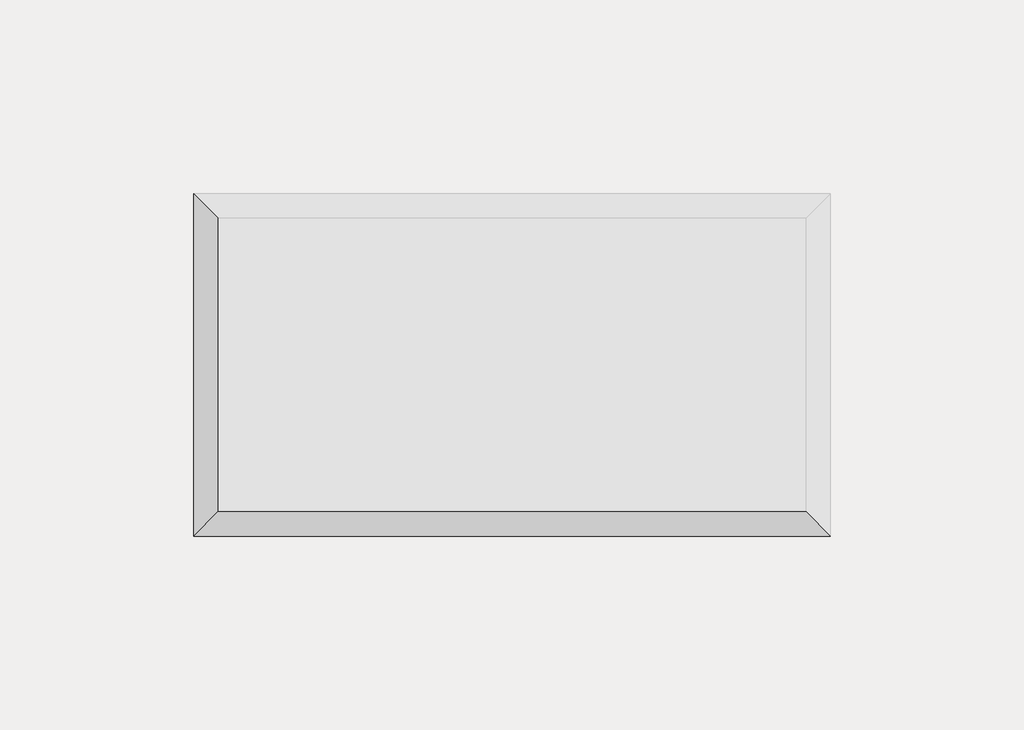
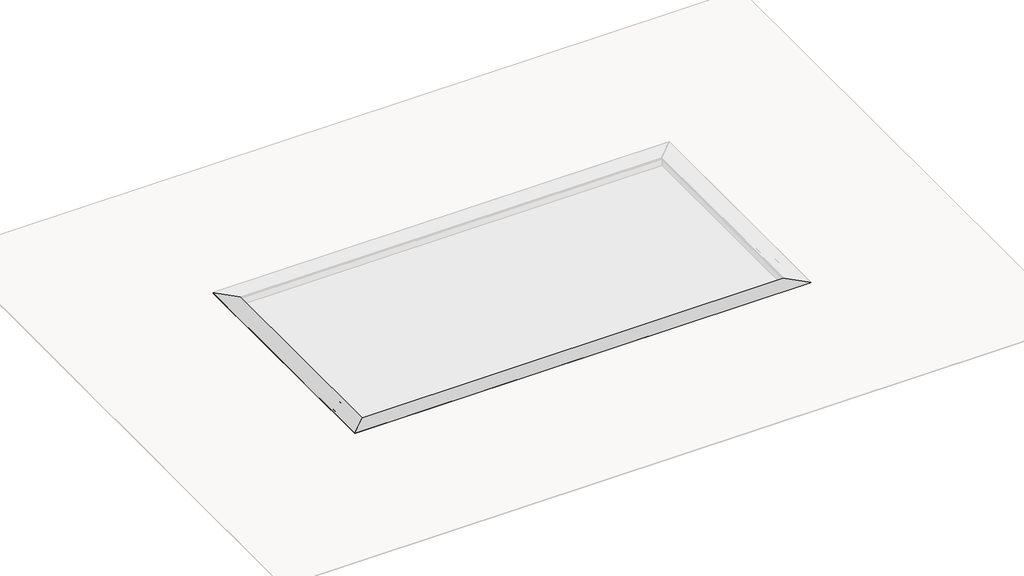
# One storey, part 2 of 8: 4 proxies.
"""IFC4 building model written with IfcOpenShell, lengths in millimetres."""

from ifc_helpers import new_model, si_unit, origin, place, context, project, spatial, faceted_brep, element, save

model = new_model("IFC4")

# Units and contexts
model_context = context("Model", 3, world=origin())
ifc_project = project(units=[si_unit("LENGTHUNIT", "METRE", prefix="MILLI")], contexts=[model_context])

# Site, building, storey
site = spatial("IfcSite", under=ifc_project)
building = spatial("IfcBuilding", under=site)
storey = spatial("IfcBuildingStorey", under=building, Name="EXAGRES_Serie ROCA POLAR_Piscinas_ejemplo", Elevation=14000.0)

# Proxies
placement = place(None, origin())
element("IfcBuildingElementProxy", 1, Name="Wall Sweeps", at=placement, inside=storey, context=model_context, shape_type="Brep", body=[
    faceted_brep([(-3627.0573251, -24249.0914606, 14000.0), (-3640.0573251, -24236.0914606, 14000.0), (-3640.0573251, -24236.0914606, 14033.0), (-3310.0573251, -24566.0914606, 14033.0), (-3310.0573251, -24566.0914606, 14021.0), (-3316.0573251, -24560.0914606, 14021.0), (-3316.0573251, -24560.0914606, 14022.0), (-3320.0573251, -24556.0914606, 14022.0), (-3320.0573251, -24556.0914606, 14021.0), (-3326.0573251, -24550.0914606, 14021.0), (-3326.0573251, -24550.0914606, 14022.0), (-3330.0573251, -24546.0914606, 14022.0), (-3330.0573251, -24546.0914606, 14021.0), (-3336.0573251, -24540.0914606, 14021.0), (-3336.0573251, -24540.0914606, 14022.0), (-3340.0573251, -24536.0914606, 14022.0), (-3340.0573251, -24536.0914606, 14021.0), (-3346.0573251, -24530.0914606, 14021.0), (-3346.0573251, -24530.0914606, 14022.0), (-3350.0573251, -24526.0914606, 14022.0), (-3350.0573251, -24526.0914606, 14021.0), (-3356.0573251, -24520.0914606, 14021.0), (-3356.0573251, -24520.0914606, 14022.0), (-3360.0573251, -24516.0914606, 14022.0), (-3360.0573251, -24516.0914606, 14021.0), (-3366.0573251, -24510.0914606, 14021.0), (-3366.0573251, -24510.0914606, 14022.0), (-3370.0573251, -24506.0914606, 14022.0), (-3370.0573251, -24506.0914606, 14021.0), (-3376.0573251, -24500.0914606, 14021.0), (-3376.0573251, -24500.0914606, 14022.0), (-3380.0573251, -24496.0914606, 14022.0), (-3380.0573251, -24496.0914606, 14021.0), (-3386.0573251, -24490.0914606, 14021.0), (-3386.0573251, -24490.0914606, 14022.0), (-3390.0573251, -24486.0914606, 14022.0), (-3390.0573251, -24486.0914606, 14021.0), (-3396.0573251, -24480.0914606, 14021.0), (-3396.0573251, -24480.0914606, 14022.0), (-3400.0573251, -24476.0914606, 14022.0), (-3400.0573251, -24476.0914606, 14021.0), (-3406.0573251, -24470.0914606, 14021.0), (-3406.0573251, -24470.0914606, 14022.0), (-3410.0573251, -24466.0914606, 14022.0), (-3410.0573251, -24466.0914606, 14021.0), (-3416.0573251, -24460.0914606, 14021.0), (-3416.0573251, -24460.0914606, 14022.0), (-3420.0573251, -24456.0914606, 14022.0), (-3420.0573251, -24456.0914606, 14021.0), (-3426.0573251, -24450.0914606, 14021.0), (-3426.0573251, -24450.0914606, 14022.0), (-3430.0573251, -24446.0914606, 14022.0), (-3430.0573251, -24446.0914606, 14021.0), (-3436.0573251, -24440.0914606, 14021.0), (-3436.0573251, -24440.0914606, 14022.0), (-3440.0573251, -24436.0914606, 14022.0), (-3440.0573251, -24436.0914606, 14021.0), (-3446.0573251, -24430.0914606, 14021.0), (-3446.0573251, -24430.0914606, 14022.0), (-3450.0573251, -24426.0914606, 14022.0), (-3450.0573251, -24426.0914606, 14021.0), (-3456.0573251, -24420.0914606, 14021.0), (-3456.0573251, -24420.0914606, 14022.0), (-3460.0573251, -24416.0914606, 14022.0), (-3460.0573251, -24416.0914606, 14021.0), (-3466.0573251, -24410.0914606, 14021.0), (-3466.0573251, -24410.0914606, 14022.0), (-3470.0573251, -24406.0914606, 14022.0), (-3470.0573251, -24406.0914606, 14021.0), (-3476.0573251, -24400.0914606, 14021.0), (-3476.0573251, -24400.0914606, 14022.0), (-3480.0573251, -24396.0914606, 14022.0), (-3480.0573251, -24396.0914606, 14021.0), (-3486.0573251, -24390.0914606, 14021.0), (-3486.0573251, -24390.0914606, 14022.0), (-3490.0573251, -24386.0914606, 14022.0), (-3490.0573251, -24386.0914606, 14021.0), (-3496.0573251, -24380.0914606, 14021.0), (-3496.0573251, -24380.0914606, 14022.0), (-3500.0573251, -24376.0914606, 14022.0), (-3500.0573251, -24376.0914606, 14021.0), (-3506.0573251, -24370.0914606, 14021.0), (-3506.0573251, -24370.0914606, 14022.0), (-3510.0573251, -24366.0914606, 14022.0), (-3510.0573251, -24366.0914606, 14021.0), (-3516.0573251, -24360.0914606, 14021.0), (-3516.0573251, -24360.0914606, 14022.0), (-3520.0573251, -24356.0914606, 14022.0), (-3520.0573251, -24356.0914606, 14021.0), (-3526.0573251, -24350.0914606, 14021.0), (-3526.0573251, -24350.0914606, 14022.0), (-3530.0573251, -24346.0914606, 14022.0), (-3530.0573251, -24346.0914606, 14021.0), (-3536.0573251, -24340.0914606, 14021.0), (-3536.0573251, -24340.0914606, 14022.0), (-3540.0573251, -24336.0914606, 14022.0), (-3540.0573251, -24336.0914606, 14021.0), (-3546.0573251, -24330.0914606, 14021.0), (-3546.0573251, -24330.0914606, 14022.0), (-3550.0573251, -24326.0914606, 14022.0), (-3550.0573251, -24326.0914606, 14021.0), (-3556.0573251, -24320.0914606, 14021.0), (-3556.0573251, -24320.0914606, 14022.0), (-3560.0573251, -24316.0914606, 14022.0), (-3560.0573251, -24316.0914606, 14021.0), (-3566.0573251, -24310.0914606, 14021.0), (-3566.0573251, -24310.0914606, 14022.0), (-3570.0573251, -24306.0914606, 14022.0), (-3570.0573251, -24306.0914606, 14021.0), (-3576.0573251, -24300.0914606, 14021.0), (-3576.0573251, -24300.0914606, 14022.0), (-3580.0573251, -24296.0914606, 14022.0), (-3580.0573251, -24296.0914606, 14021.0), (-3586.0573251, -24290.0914606, 14021.0), (-3586.0573251, -24290.0914606, 14022.0), (-3590.0573251, -24286.0914606, 14022.0), (-3590.0573251, -24286.0914606, 14021.0), (-3596.0573251, -24280.0914606, 14021.0), (-3596.0573251, -24280.0914606, 14022.0), (-3600.0573251, -24276.0914606, 14022.0), (-3600.0573251, -24276.0914606, 14021.0), (-3606.0573251, -24270.0914606, 14021.0), (-3606.0573251, -24270.0914606, 14022.0), (-3610.0573251, -24266.0914606, 14022.0), (-3610.0573251, -24266.0914606, 14021.0), (-3616.0573251, -24260.0914606, 14021.0), (-3616.0573251, -24260.0914606, 14022.0), (-3620.0573251, -24256.0914606, 14022.0), (-3620.0573251, -24256.0914606, 14021.0), (-3627.0573251, -24249.0914606, 14021.0), (-3627.0573251, -24249.0914606, 14014.0), (-3628.0573251, -24248.0914606, 14014.0), (-3628.0573251, -24248.0914606, 14008.0), (-3627.0573251, -24249.0914606, 14008.0), (-11653.0573251, -24249.0914606, 14000.0), (-11653.0573251, -24249.0914606, 14008.0), (-11652.0573251, -24248.0914606, 14008.0), (-11652.0573251, -24248.0914606, 14014.0), (-11653.0573251, -24249.0914606, 14014.0), (-11653.0573251, -24249.0914606, 14021.0), (-11660.0573251, -24256.0914606, 14021.0), (-11660.0573251, -24256.0914606, 14022.0), (-11664.0573251, -24260.0914606, 14022.0), (-11664.0573251, -24260.0914606, 14021.0), (-11670.0573251, -24266.0914606, 14021.0), (-11670.0573251, -24266.0914606, 14022.0), (-11674.0573251, -24270.0914606, 14022.0), (-11674.0573251, -24270.0914606, 14021.0), (-11680.0573251, -24276.0914606, 14021.0), (-11680.0573251, -24276.0914606, 14022.0), (-11684.0573251, -24280.0914606, 14022.0), (-11684.0573251, -24280.0914606, 14021.0), (-11690.0573251, -24286.0914606, 14021.0), (-11690.0573251, -24286.0914606, 14022.0), (-11694.0573251, -24290.0914606, 14022.0), (-11694.0573251, -24290.0914606, 14021.0), (-11700.0573251, -24296.0914606, 14021.0), (-11700.0573251, -24296.0914606, 14022.0), (-11704.0573251, -24300.0914606, 14022.0), (-11704.0573251, -24300.0914606, 14021.0), (-11710.0573251, -24306.0914606, 14021.0), (-11710.0573251, -24306.0914606, 14022.0), (-11714.0573251, -24310.0914606, 14022.0), (-11714.0573251, -24310.0914606, 14021.0), (-11720.0573251, -24316.0914606, 14021.0), (-11720.0573251, -24316.0914606, 14022.0), (-11724.0573251, -24320.0914606, 14022.0), (-11724.0573251, -24320.0914606, 14021.0), (-11730.0573251, -24326.0914606, 14021.0), (-11730.0573251, -24326.0914606, 14022.0), (-11734.0573251, -24330.0914606, 14022.0), (-11734.0573251, -24330.0914606, 14021.0), (-11740.0573251, -24336.0914606, 14021.0), (-11740.0573251, -24336.0914606, 14022.0), (-11744.0573251, -24340.0914606, 14022.0), (-11744.0573251, -24340.0914606, 14021.0), (-11750.0573251, -24346.0914606, 14021.0), (-11750.0573251, -24346.0914606, 14022.0), (-11754.0573251, -24350.0914606, 14022.0), (-11754.0573251, -24350.0914606, 14021.0), (-11760.0573251, -24356.0914606, 14021.0), (-11760.0573251, -24356.0914606, 14022.0), (-11764.0573251, -24360.0914606, 14022.0), (-11764.0573251, -24360.0914606, 14021.0), (-11770.0573251, -24366.0914606, 14021.0), (-11770.0573251, -24366.0914606, 14022.0), (-11774.0573251, -24370.0914606, 14022.0), (-11774.0573251, -24370.0914606, 14021.0), (-11780.0573251, -24376.0914606, 14021.0), (-11780.0573251, -24376.0914606, 14022.0), (-11784.0573251, -24380.0914606, 14022.0), (-11784.0573251, -24380.0914606, 14021.0), (-11790.0573251, -24386.0914606, 14021.0), (-11790.0573251, -24386.0914606, 14022.0), (-11794.0573251, -24390.0914606, 14022.0), (-11794.0573251, -24390.0914606, 14021.0), (-11800.0573251, -24396.0914606, 14021.0), (-11800.0573251, -24396.0914606, 14022.0), (-11804.0573251, -24400.0914606, 14022.0), (-11804.0573251, -24400.0914606, 14021.0), (-11810.0573251, -24406.0914606, 14021.0), (-11810.0573251, -24406.0914606, 14022.0), (-11814.0573251, -24410.0914606, 14022.0), (-11814.0573251, -24410.0914606, 14021.0), (-11820.0573251, -24416.0914606, 14021.0), (-11820.0573251, -24416.0914606, 14022.0), (-11824.0573251, -24420.0914606, 14022.0), (-11824.0573251, -24420.0914606, 14021.0), (-11830.0573251, -24426.0914606, 14021.0), (-11830.0573251, -24426.0914606, 14022.0), (-11834.0573251, -24430.0914606, 14022.0), (-11834.0573251, -24430.0914606, 14021.0), (-11840.0573251, -24436.0914606, 14021.0), (-11840.0573251, -24436.0914606, 14022.0), (-11844.0573251, -24440.0914606, 14022.0), (-11844.0573251, -24440.0914606, 14021.0), (-11850.0573251, -24446.0914606, 14021.0), (-11850.0573251, -24446.0914606, 14022.0), (-11854.0573251, -24450.0914606, 14022.0), (-11854.0573251, -24450.0914606, 14021.0), (-11860.0573251, -24456.0914606, 14021.0), (-11860.0573251, -24456.0914606, 14022.0), (-11864.0573251, -24460.0914606, 14022.0), (-11864.0573251, -24460.0914606, 14021.0), (-11870.0573251, -24466.0914606, 14021.0), (-11870.0573251, -24466.0914606, 14022.0), (-11874.0573251, -24470.0914606, 14022.0), (-11874.0573251, -24470.0914606, 14021.0), (-11880.0573251, -24476.0914606, 14021.0), (-11880.0573251, -24476.0914606, 14022.0), (-11884.0573251, -24480.0914606, 14022.0), (-11884.0573251, -24480.0914606, 14021.0), (-11890.0573251, -24486.0914606, 14021.0), (-11890.0573251, -24486.0914606, 14022.0), (-11894.0573251, -24490.0914606, 14022.0), (-11894.0573251, -24490.0914606, 14021.0), (-11900.0573251, -24496.0914606, 14021.0), (-11900.0573251, -24496.0914606, 14022.0), (-11904.0573251, -24500.0914606, 14022.0), (-11904.0573251, -24500.0914606, 14021.0), (-11910.0573251, -24506.0914606, 14021.0), (-11910.0573251, -24506.0914606, 14022.0), (-11914.0573251, -24510.0914606, 14022.0), (-11914.0573251, -24510.0914606, 14021.0), (-11920.0573251, -24516.0914606, 14021.0), (-11920.0573251, -24516.0914606, 14022.0), (-11924.0573251, -24520.0914606, 14022.0), (-11924.0573251, -24520.0914606, 14021.0), (-11930.0573251, -24526.0914606, 14021.0), (-11930.0573251, -24526.0914606, 14022.0), (-11934.0573251, -24530.0914606, 14022.0), (-11934.0573251, -24530.0914606, 14021.0), (-11940.0573251, -24536.0914606, 14021.0), (-11940.0573251, -24536.0914606, 14022.0), (-11944.0573251, -24540.0914606, 14022.0), (-11944.0573251, -24540.0914606, 14021.0), (-11950.0573251, -24546.0914606, 14021.0), (-11950.0573251, -24546.0914606, 14022.0), (-11954.0573251, -24550.0914606, 14022.0), (-11954.0573251, -24550.0914606, 14021.0), (-11960.0573251, -24556.0914606, 14021.0), (-11960.0573251, -24556.0914606, 14022.0), (-11964.0573251, -24560.0914606, 14022.0), (-11964.0573251, -24560.0914606, 14021.0), (-11970.0573251, -24566.0914606, 14021.0), (-11970.0573251, -24566.0914606, 14033.0), (-11640.0573251, -24236.0914606, 14033.0), (-11640.0573251, -24236.0914606, 14000.0)], [[[0, 1, 2, 3, 4, 5, 6, 7, 8, 9, 10, 11, 12, 13, 14, 15, 16, 17, 18, 19, 20, 21, 22, 23, 24, 25, 26, 27, 28, 29, 30, 31, 32, 33, 34, 35, 36, 37, 38, 39, 40, 41, 42, 43, 44, 45, 46, 47, 48, 49, 50, 51, 52, 53, 54, 55, 56, 57, 58, 59, 60, 61, 62, 63, 64, 65, 66, 67, 68, 69, 70, 71, 72, 73, 74, 75, 76, 77, 78, 79, 80, 81, 82, 83, 84, 85, 86, 87, 88, 89, 90, 91, 92, 93, 94, 95, 96, 97, 98, 99, 100, 101, 102, 103, 104, 105, 106, 107, 108, 109, 110, 111, 112, 113, 114, 115, 116, 117, 118, 119, 120, 121, 122, 123, 124, 125, 126, 127, 128, 129, 130, 131, 132, 133]], [[134, 135, 136, 137, 138, 139, 140, 141, 142, 143, 144, 145, 146, 147, 148, 149, 150, 151, 152, 153, 154, 155, 156, 157, 158, 159, 160, 161, 162, 163, 164, 165, 166, 167, 168, 169, 170, 171, 172, 173, 174, 175, 176, 177, 178, 179, 180, 181, 182, 183, 184, 185, 186, 187, 188, 189, 190, 191, 192, 193, 194, 195, 196, 197, 198, 199, 200, 201, 202, 203, 204, 205, 206, 207, 208, 209, 210, 211, 212, 213, 214, 215, 216, 217, 218, 219, 220, 221, 222, 223, 224, 225, 226, 227, 228, 229, 230, 231, 232, 233, 234, 235, 236, 237, 238, 239, 240, 241, 242, 243, 244, 245, 246, 247, 248, 249, 250, 251, 252, 253, 254, 255, 256, 257, 258, 259, 260, 261, 262, 263, 264, 265, 266, 267]], [[1, 0, 134, 267]], [[2, 1, 267, 266]], [[3, 2, 266, 265]], [[4, 3, 265, 264]], [[5, 4, 264, 263]], [[6, 5, 263, 262]], [[7, 6, 262, 261]], [[8, 7, 261, 260]], [[9, 8, 260, 259]], [[10, 9, 259, 258]], [[11, 10, 258, 257]], [[12, 11, 257, 256]], [[13, 12, 256, 255]], [[14, 13, 255, 254]], [[15, 14, 254, 253]], [[16, 15, 253, 252]], [[17, 16, 252, 251]], [[18, 17, 251, 250]], [[19, 18, 250, 249]], [[20, 19, 249, 248]], [[21, 20, 248, 247]], [[22, 21, 247, 246]], [[23, 22, 246, 245]], [[24, 23, 245, 244]], [[25, 24, 244, 243]], [[26, 25, 243, 242]], [[27, 26, 242, 241]], [[28, 27, 241, 240]], [[29, 28, 240, 239]], [[30, 29, 239, 238]], [[31, 30, 238, 237]], [[32, 31, 237, 236]], [[33, 32, 236, 235]], [[34, 33, 235, 234]], [[35, 34, 234, 233]], [[36, 35, 233, 232]], [[37, 36, 232, 231]], [[38, 37, 231, 230]], [[39, 38, 230, 229]], [[40, 39, 229, 228]], [[41, 40, 228, 227]], [[42, 41, 227, 226]], [[43, 42, 226, 225]], [[44, 43, 225, 224]], [[45, 44, 224, 223]], [[46, 45, 223, 222]], [[47, 46, 222, 221]], [[48, 47, 221, 220]], [[49, 48, 220, 219]], [[50, 49, 219, 218]], [[51, 50, 218, 217]], [[52, 51, 217, 216]], [[53, 52, 216, 215]], [[54, 53, 215, 214]], [[55, 54, 214, 213]], [[56, 55, 213, 212]], [[57, 56, 212, 211]], [[58, 57, 211, 210]], [[59, 58, 210, 209]], [[60, 59, 209, 208]], [[61, 60, 208, 207]], [[62, 61, 207, 206]], [[63, 62, 206, 205]], [[64, 63, 205, 204]], [[65, 64, 204, 203]], [[66, 65, 203, 202]], [[67, 66, 202, 201]], [[68, 67, 201, 200]], [[69, 68, 200, 199]], [[70, 69, 199, 198]], [[71, 70, 198, 197]], [[72, 71, 197, 196]], [[73, 72, 196, 195]], [[74, 73, 195, 194]], [[75, 74, 194, 193]], [[76, 75, 193, 192]], [[77, 76, 192, 191]], [[78, 77, 191, 190]], [[79, 78, 190, 189]], [[80, 79, 189, 188]], [[81, 80, 188, 187]], [[82, 81, 187, 186]], [[83, 82, 186, 185]], [[84, 83, 185, 184]], [[85, 84, 184, 183]], [[86, 85, 183, 182]], [[87, 86, 182, 181]], [[88, 87, 181, 180]], [[89, 88, 180, 179]], [[90, 89, 179, 178]], [[91, 90, 178, 177]], [[92, 91, 177, 176]], [[93, 92, 176, 175]], [[94, 93, 175, 174]], [[95, 94, 174, 173]], [[96, 95, 173, 172]], [[97, 96, 172, 171]], [[98, 97, 171, 170]], [[99, 98, 170, 169]], [[100, 99, 169, 168]], [[101, 100, 168, 167]], [[102, 101, 167, 166]], [[103, 102, 166, 165]], [[104, 103, 165, 164]], [[105, 104, 164, 163]], [[106, 105, 163, 162]], [[107, 106, 162, 161]], [[108, 107, 161, 160]], [[109, 108, 160, 159]], [[110, 109, 159, 158]], [[111, 110, 158, 157]], [[112, 111, 157, 156]], [[113, 112, 156, 155]], [[114, 113, 155, 154]], [[115, 114, 154, 153]], [[116, 115, 153, 152]], [[117, 116, 152, 151]], [[118, 117, 151, 150]], [[119, 118, 150, 149]], [[120, 119, 149, 148]], [[121, 120, 148, 147]], [[122, 121, 147, 146]], [[123, 122, 146, 145]], [[124, 123, 145, 144]], [[125, 124, 144, 143]], [[126, 125, 143, 142]], [[127, 126, 142, 141]], [[128, 127, 141, 140]], [[129, 128, 140, 139]], [[130, 129, 139, 138]], [[131, 130, 138, 137]], [[132, 131, 137, 136]], [[133, 132, 136, 135]], [[0, 133, 135, 134]]]),
])
element("IfcBuildingElementProxy", 2, Name="Wall Sweeps", at=placement, inside=storey, context=model_context, shape_type="Brep", body=[
    faceted_brep([(-3320.0573251, -24556.0914606, 13818.74), (-3415.0573251, -24461.0914606, 13818.74), (-3625.0573251, -24251.0914606, 13818.74), (-3625.0573251, -24251.0914606, 14000.0), (-3625.0573251, -24251.0914606, 14018.74), (-3320.0573251, -24556.0914606, 14018.74), (-11960.0573251, -24556.0914606, 13818.74), (-11960.0573251, -24556.0914606, 14018.74), (-11655.0573251, -24251.0914606, 14018.74), (-11655.0573251, -24251.0914606, 14000.0), (-11655.0573251, -24251.0914606, 13818.74), (-11865.0573251, -24461.0914606, 13818.74)], [[[0, 1, 2, 3, 4, 5]], [[6, 7, 8, 9, 10, 11]], [[4, 3, 2, 10, 9, 8]], [[2, 1, 0, 6, 11, 10]], [[5, 4, 8, 7]], [[0, 5, 7, 6]]]),
])
element("IfcBuildingElementProxy", 3, Name="Wall Sweeps", at=placement, inside=storey, context=model_context, shape_type="Brep", body=[
    faceted_brep([(-11653.0573251, -24249.0914606, 14000.0), (-11640.0573251, -24236.0914606, 14000.0), (-11640.0573251, -24236.0914606, 14033.0), (-11970.0573251, -24566.0914606, 14033.0), (-11970.0573251, -24566.0914606, 14021.0), (-11964.0573251, -24560.0914606, 14021.0), (-11964.0573251, -24560.0914606, 14022.0), (-11960.0573251, -24556.0914606, 14022.0), (-11960.0573251, -24556.0914606, 14021.0), (-11954.0573251, -24550.0914606, 14021.0), (-11954.0573251, -24550.0914606, 14022.0), (-11950.0573251, -24546.0914606, 14022.0), (-11950.0573251, -24546.0914606, 14021.0), (-11944.0573251, -24540.0914606, 14021.0), (-11944.0573251, -24540.0914606, 14022.0), (-11940.0573251, -24536.0914606, 14022.0), (-11940.0573251, -24536.0914606, 14021.0), (-11934.0573251, -24530.0914606, 14021.0), (-11934.0573251, -24530.0914606, 14022.0), (-11930.0573251, -24526.0914606, 14022.0), (-11930.0573251, -24526.0914606, 14021.0), (-11924.0573251, -24520.0914606, 14021.0), (-11924.0573251, -24520.0914606, 14022.0), (-11920.0573251, -24516.0914606, 14022.0), (-11920.0573251, -24516.0914606, 14021.0), (-11914.0573251, -24510.0914606, 14021.0), (-11914.0573251, -24510.0914606, 14022.0), (-11910.0573251, -24506.0914606, 14022.0), (-11910.0573251, -24506.0914606, 14021.0), (-11904.0573251, -24500.0914606, 14021.0), (-11904.0573251, -24500.0914606, 14022.0), (-11900.0573251, -24496.0914606, 14022.0), (-11900.0573251, -24496.0914606, 14021.0), (-11894.0573251, -24490.0914606, 14021.0), (-11894.0573251, -24490.0914606, 14022.0), (-11890.0573251, -24486.0914606, 14022.0), (-11890.0573251, -24486.0914606, 14021.0), (-11884.0573251, -24480.0914606, 14021.0), (-11884.0573251, -24480.0914606, 14022.0), (-11880.0573251, -24476.0914606, 14022.0), (-11880.0573251, -24476.0914606, 14021.0), (-11874.0573251, -24470.0914606, 14021.0), (-11874.0573251, -24470.0914606, 14022.0), (-11870.0573251, -24466.0914606, 14022.0), (-11870.0573251, -24466.0914606, 14021.0), (-11864.0573251, -24460.0914606, 14021.0), (-11864.0573251, -24460.0914606, 14022.0), (-11860.0573251, -24456.0914606, 14022.0), (-11860.0573251, -24456.0914606, 14021.0), (-11854.0573251, -24450.0914606, 14021.0), (-11854.0573251, -24450.0914606, 14022.0), (-11850.0573251, -24446.0914606, 14022.0), (-11850.0573251, -24446.0914606, 14021.0), (-11844.0573251, -24440.0914606, 14021.0), (-11844.0573251, -24440.0914606, 14022.0), (-11840.0573251, -24436.0914606, 14022.0), (-11840.0573251, -24436.0914606, 14021.0), (-11834.0573251, -24430.0914606, 14021.0), (-11834.0573251, -24430.0914606, 14022.0), (-11830.0573251, -24426.0914606, 14022.0), (-11830.0573251, -24426.0914606, 14021.0), (-11824.0573251, -24420.0914606, 14021.0), (-11824.0573251, -24420.0914606, 14022.0), (-11820.0573251, -24416.0914606, 14022.0), (-11820.0573251, -24416.0914606, 14021.0), (-11814.0573251, -24410.0914606, 14021.0), (-11814.0573251, -24410.0914606, 14022.0), (-11810.0573251, -24406.0914606, 14022.0), (-11810.0573251, -24406.0914606, 14021.0), (-11804.0573251, -24400.0914606, 14021.0), (-11804.0573251, -24400.0914606, 14022.0), (-11800.0573251, -24396.0914606, 14022.0), (-11800.0573251, -24396.0914606, 14021.0), (-11794.0573251, -24390.0914606, 14021.0), (-11794.0573251, -24390.0914606, 14022.0), (-11790.0573251, -24386.0914606, 14022.0), (-11790.0573251, -24386.0914606, 14021.0), (-11784.0573251, -24380.0914606, 14021.0), (-11784.0573251, -24380.0914606, 14022.0), (-11780.0573251, -24376.0914606, 14022.0), (-11780.0573251, -24376.0914606, 14021.0), (-11774.0573251, -24370.0914606, 14021.0), (-11774.0573251, -24370.0914606, 14022.0), (-11770.0573251, -24366.0914606, 14022.0), (-11770.0573251, -24366.0914606, 14021.0), (-11764.0573251, -24360.0914606, 14021.0), (-11764.0573251, -24360.0914606, 14022.0), (-11760.0573251, -24356.0914606, 14022.0), (-11760.0573251, -24356.0914606, 14021.0), (-11754.0573251, -24350.0914606, 14021.0), (-11754.0573251, -24350.0914606, 14022.0), (-11750.0573251, -24346.0914606, 14022.0), (-11750.0573251, -24346.0914606, 14021.0), (-11744.0573251, -24340.0914606, 14021.0), (-11744.0573251, -24340.0914606, 14022.0), (-11740.0573251, -24336.0914606, 14022.0), (-11740.0573251, -24336.0914606, 14021.0), (-11734.0573251, -24330.0914606, 14021.0), (-11734.0573251, -24330.0914606, 14022.0), (-11730.0573251, -24326.0914606, 14022.0), (-11730.0573251, -24326.0914606, 14021.0), (-11724.0573251, -24320.0914606, 14021.0), (-11724.0573251, -24320.0914606, 14022.0), (-11720.0573251, -24316.0914606, 14022.0), (-11720.0573251, -24316.0914606, 14021.0), (-11714.0573251, -24310.0914606, 14021.0), (-11714.0573251, -24310.0914606, 14022.0), (-11710.0573251, -24306.0914606, 14022.0), (-11710.0573251, -24306.0914606, 14021.0), (-11704.0573251, -24300.0914606, 14021.0), (-11704.0573251, -24300.0914606, 14022.0), (-11700.0573251, -24296.0914606, 14022.0), (-11700.0573251, -24296.0914606, 14021.0), (-11694.0573251, -24290.0914606, 14021.0), (-11694.0573251, -24290.0914606, 14022.0), (-11690.0573251, -24286.0914606, 14022.0), (-11690.0573251, -24286.0914606, 14021.0), (-11684.0573251, -24280.0914606, 14021.0), (-11684.0573251, -24280.0914606, 14022.0), (-11680.0573251, -24276.0914606, 14022.0), (-11680.0573251, -24276.0914606, 14021.0), (-11674.0573251, -24270.0914606, 14021.0), (-11674.0573251, -24270.0914606, 14022.0), (-11670.0573251, -24266.0914606, 14022.0), (-11670.0573251, -24266.0914606, 14021.0), (-11664.0573251, -24260.0914606, 14021.0), (-11664.0573251, -24260.0914606, 14022.0), (-11660.0573251, -24256.0914606, 14022.0), (-11660.0573251, -24256.0914606, 14021.0), (-11653.0573251, -24249.0914606, 14021.0), (-11653.0573251, -24249.0914606, 14014.0), (-11652.0573251, -24248.0914606, 14014.0), (-11652.0573251, -24248.0914606, 14008.0), (-11653.0573251, -24249.0914606, 14008.0), (-11653.0573251, -20223.0914606, 14000.0), (-11653.0573251, -20223.0914606, 14008.0), (-11652.0573251, -20224.0914606, 14008.0), (-11652.0573251, -20224.0914606, 14014.0), (-11653.0573251, -20223.0914606, 14014.0), (-11653.0573251, -20223.0914606, 14021.0), (-11660.0573251, -20216.0914606, 14021.0), (-11660.0573251, -20216.0914606, 14022.0), (-11664.0573251, -20212.0914606, 14022.0), (-11664.0573251, -20212.0914606, 14021.0), (-11670.0573251, -20206.0914606, 14021.0), (-11670.0573251, -20206.0914606, 14022.0), (-11674.0573251, -20202.0914606, 14022.0), (-11674.0573251, -20202.0914606, 14021.0), (-11680.0573251, -20196.0914606, 14021.0), (-11680.0573251, -20196.0914606, 14022.0), (-11684.0573251, -20192.0914606, 14022.0), (-11684.0573251, -20192.0914606, 14021.0), (-11690.0573251, -20186.0914606, 14021.0), (-11690.0573251, -20186.0914606, 14022.0), (-11694.0573251, -20182.0914606, 14022.0), (-11694.0573251, -20182.0914606, 14021.0), (-11700.0573251, -20176.0914606, 14021.0), (-11700.0573251, -20176.0914606, 14022.0), (-11704.0573251, -20172.0914606, 14022.0), (-11704.0573251, -20172.0914606, 14021.0), (-11710.0573251, -20166.0914606, 14021.0), (-11710.0573251, -20166.0914606, 14022.0), (-11714.0573251, -20162.0914606, 14022.0), (-11714.0573251, -20162.0914606, 14021.0), (-11720.0573251, -20156.0914606, 14021.0), (-11720.0573251, -20156.0914606, 14022.0), (-11724.0573251, -20152.0914606, 14022.0), (-11724.0573251, -20152.0914606, 14021.0), (-11730.0573251, -20146.0914606, 14021.0), (-11730.0573251, -20146.0914606, 14022.0), (-11734.0573251, -20142.0914606, 14022.0), (-11734.0573251, -20142.0914606, 14021.0), (-11740.0573251, -20136.0914606, 14021.0), (-11740.0573251, -20136.0914606, 14022.0), (-11744.0573251, -20132.0914606, 14022.0), (-11744.0573251, -20132.0914606, 14021.0), (-11750.0573251, -20126.0914606, 14021.0), (-11750.0573251, -20126.0914606, 14022.0), (-11754.0573251, -20122.0914606, 14022.0), (-11754.0573251, -20122.0914606, 14021.0), (-11760.0573251, -20116.0914606, 14021.0), (-11760.0573251, -20116.0914606, 14022.0), (-11764.0573251, -20112.0914606, 14022.0), (-11764.0573251, -20112.0914606, 14021.0), (-11770.0573251, -20106.0914606, 14021.0), (-11770.0573251, -20106.0914606, 14022.0), (-11774.0573251, -20102.0914606, 14022.0), (-11774.0573251, -20102.0914606, 14021.0), (-11780.0573251, -20096.0914606, 14021.0), (-11780.0573251, -20096.0914606, 14022.0), (-11784.0573251, -20092.0914606, 14022.0), (-11784.0573251, -20092.0914606, 14021.0), (-11790.0573251, -20086.0914606, 14021.0), (-11790.0573251, -20086.0914606, 14022.0), (-11794.0573251, -20082.0914606, 14022.0), (-11794.0573251, -20082.0914606, 14021.0), (-11800.0573251, -20076.0914606, 14021.0), (-11800.0573251, -20076.0914606, 14022.0), (-11804.0573251, -20072.0914606, 14022.0), (-11804.0573251, -20072.0914606, 14021.0), (-11810.0573251, -20066.0914606, 14021.0), (-11810.0573251, -20066.0914606, 14022.0), (-11814.0573251, -20062.0914606, 14022.0), (-11814.0573251, -20062.0914606, 14021.0), (-11820.0573251, -20056.0914606, 14021.0), (-11820.0573251, -20056.0914606, 14022.0), (-11824.0573251, -20052.0914606, 14022.0), (-11824.0573251, -20052.0914606, 14021.0), (-11830.0573251, -20046.0914606, 14021.0), (-11830.0573251, -20046.0914606, 14022.0), (-11834.0573251, -20042.0914606, 14022.0), (-11834.0573251, -20042.0914606, 14021.0), (-11840.0573251, -20036.0914606, 14021.0), (-11840.0573251, -20036.0914606, 14022.0), (-11844.0573251, -20032.0914606, 14022.0), (-11844.0573251, -20032.0914606, 14021.0), (-11850.0573251, -20026.0914606, 14021.0), (-11850.0573251, -20026.0914606, 14022.0), (-11854.0573251, -20022.0914606, 14022.0), (-11854.0573251, -20022.0914606, 14021.0), (-11860.0573251, -20016.0914606, 14021.0), (-11860.0573251, -20016.0914606, 14022.0), (-11864.0573251, -20012.0914606, 14022.0), (-11864.0573251, -20012.0914606, 14021.0), (-11870.0573251, -20006.0914606, 14021.0), (-11870.0573251, -20006.0914606, 14022.0), (-11874.0573251, -20002.0914606, 14022.0), (-11874.0573251, -20002.0914606, 14021.0), (-11880.0573251, -19996.0914606, 14021.0), (-11880.0573251, -19996.0914606, 14022.0), (-11884.0573251, -19992.0914606, 14022.0), (-11884.0573251, -19992.0914606, 14021.0), (-11890.0573251, -19986.0914606, 14021.0), (-11890.0573251, -19986.0914606, 14022.0), (-11894.0573251, -19982.0914606, 14022.0), (-11894.0573251, -19982.0914606, 14021.0), (-11900.0573251, -19976.0914606, 14021.0), (-11900.0573251, -19976.0914606, 14022.0), (-11904.0573251, -19972.0914606, 14022.0), (-11904.0573251, -19972.0914606, 14021.0), (-11910.0573251, -19966.0914606, 14021.0), (-11910.0573251, -19966.0914606, 14022.0), (-11914.0573251, -19962.0914606, 14022.0), (-11914.0573251, -19962.0914606, 14021.0), (-11920.0573251, -19956.0914606, 14021.0), (-11920.0573251, -19956.0914606, 14022.0), (-11924.0573251, -19952.0914606, 14022.0), (-11924.0573251, -19952.0914606, 14021.0), (-11930.0573251, -19946.0914606, 14021.0), (-11930.0573251, -19946.0914606, 14022.0), (-11934.0573251, -19942.0914606, 14022.0), (-11934.0573251, -19942.0914606, 14021.0), (-11940.0573251, -19936.0914606, 14021.0), (-11940.0573251, -19936.0914606, 14022.0), (-11944.0573251, -19932.0914606, 14022.0), (-11944.0573251, -19932.0914606, 14021.0), (-11950.0573251, -19926.0914606, 14021.0), (-11950.0573251, -19926.0914606, 14022.0), (-11954.0573251, -19922.0914606, 14022.0), (-11954.0573251, -19922.0914606, 14021.0), (-11960.0573251, -19916.0914606, 14021.0), (-11960.0573251, -19916.0914606, 14022.0), (-11964.0573251, -19912.0914606, 14022.0), (-11964.0573251, -19912.0914606, 14021.0), (-11970.0573251, -19906.0914606, 14021.0), (-11970.0573251, -19906.0914606, 14033.0), (-11640.0573251, -20236.0914606, 14033.0), (-11640.0573251, -20236.0914606, 14000.0)], [[[0, 1, 2, 3, 4, 5, 6, 7, 8, 9, 10, 11, 12, 13, 14, 15, 16, 17, 18, 19, 20, 21, 22, 23, 24, 25, 26, 27, 28, 29, 30, 31, 32, 33, 34, 35, 36, 37, 38, 39, 40, 41, 42, 43, 44, 45, 46, 47, 48, 49, 50, 51, 52, 53, 54, 55, 56, 57, 58, 59, 60, 61, 62, 63, 64, 65, 66, 67, 68, 69, 70, 71, 72, 73, 74, 75, 76, 77, 78, 79, 80, 81, 82, 83, 84, 85, 86, 87, 88, 89, 90, 91, 92, 93, 94, 95, 96, 97, 98, 99, 100, 101, 102, 103, 104, 105, 106, 107, 108, 109, 110, 111, 112, 113, 114, 115, 116, 117, 118, 119, 120, 121, 122, 123, 124, 125, 126, 127, 128, 129, 130, 131, 132, 133]], [[134, 135, 136, 137, 138, 139, 140, 141, 142, 143, 144, 145, 146, 147, 148, 149, 150, 151, 152, 153, 154, 155, 156, 157, 158, 159, 160, 161, 162, 163, 164, 165, 166, 167, 168, 169, 170, 171, 172, 173, 174, 175, 176, 177, 178, 179, 180, 181, 182, 183, 184, 185, 186, 187, 188, 189, 190, 191, 192, 193, 194, 195, 196, 197, 198, 199, 200, 201, 202, 203, 204, 205, 206, 207, 208, 209, 210, 211, 212, 213, 214, 215, 216, 217, 218, 219, 220, 221, 222, 223, 224, 225, 226, 227, 228, 229, 230, 231, 232, 233, 234, 235, 236, 237, 238, 239, 240, 241, 242, 243, 244, 245, 246, 247, 248, 249, 250, 251, 252, 253, 254, 255, 256, 257, 258, 259, 260, 261, 262, 263, 264, 265, 266, 267]], [[1, 0, 134, 267]], [[2, 1, 267, 266]], [[3, 2, 266, 265]], [[4, 3, 265, 264]], [[5, 4, 264, 263]], [[6, 5, 263, 262]], [[7, 6, 262, 261]], [[8, 7, 261, 260]], [[9, 8, 260, 259]], [[10, 9, 259, 258]], [[11, 10, 258, 257]], [[12, 11, 257, 256]], [[13, 12, 256, 255]], [[14, 13, 255, 254]], [[15, 14, 254, 253]], [[16, 15, 253, 252]], [[17, 16, 252, 251]], [[18, 17, 251, 250]], [[19, 18, 250, 249]], [[20, 19, 249, 248]], [[21, 20, 248, 247]], [[22, 21, 247, 246]], [[23, 22, 246, 245]], [[24, 23, 245, 244]], [[25, 24, 244, 243]], [[26, 25, 243, 242]], [[27, 26, 242, 241]], [[28, 27, 241, 240]], [[29, 28, 240, 239]], [[30, 29, 239, 238]], [[31, 30, 238, 237]], [[32, 31, 237, 236]], [[33, 32, 236, 235]], [[34, 33, 235, 234]], [[35, 34, 234, 233]], [[36, 35, 233, 232]], [[37, 36, 232, 231]], [[38, 37, 231, 230]], [[39, 38, 230, 229]], [[40, 39, 229, 228]], [[41, 40, 228, 227]], [[42, 41, 227, 226]], [[43, 42, 226, 225]], [[44, 43, 225, 224]], [[45, 44, 224, 223]], [[46, 45, 223, 222]], [[47, 46, 222, 221]], [[48, 47, 221, 220]], [[49, 48, 220, 219]], [[50, 49, 219, 218]], [[51, 50, 218, 217]], [[52, 51, 217, 216]], [[53, 52, 216, 215]], [[54, 53, 215, 214]], [[55, 54, 214, 213]], [[56, 55, 213, 212]], [[57, 56, 212, 211]], [[58, 57, 211, 210]], [[59, 58, 210, 209]], [[60, 59, 209, 208]], [[61, 60, 208, 207]], [[62, 61, 207, 206]], [[63, 62, 206, 205]], [[64, 63, 205, 204]], [[65, 64, 204, 203]], [[66, 65, 203, 202]], [[67, 66, 202, 201]], [[68, 67, 201, 200]], [[69, 68, 200, 199]], [[70, 69, 199, 198]], [[71, 70, 198, 197]], [[72, 71, 197, 196]], [[73, 72, 196, 195]], [[74, 73, 195, 194]], [[75, 74, 194, 193]], [[76, 75, 193, 192]], [[77, 76, 192, 191]], [[78, 77, 191, 190]], [[79, 78, 190, 189]], [[80, 79, 189, 188]], [[81, 80, 188, 187]], [[82, 81, 187, 186]], [[83, 82, 186, 185]], [[84, 83, 185, 184]], [[85, 84, 184, 183]], [[86, 85, 183, 182]], [[87, 86, 182, 181]], [[88, 87, 181, 180]], [[89, 88, 180, 179]], [[90, 89, 179, 178]], [[91, 90, 178, 177]], [[92, 91, 177, 176]], [[93, 92, 176, 175]], [[94, 93, 175, 174]], [[95, 94, 174, 173]], [[96, 95, 173, 172]], [[97, 96, 172, 171]], [[98, 97, 171, 170]], [[99, 98, 170, 169]], [[100, 99, 169, 168]], [[101, 100, 168, 167]], [[102, 101, 167, 166]], [[103, 102, 166, 165]], [[104, 103, 165, 164]], [[105, 104, 164, 163]], [[106, 105, 163, 162]], [[107, 106, 162, 161]], [[108, 107, 161, 160]], [[109, 108, 160, 159]], [[110, 109, 159, 158]], [[111, 110, 158, 157]], [[112, 111, 157, 156]], [[113, 112, 156, 155]], [[114, 113, 155, 154]], [[115, 114, 154, 153]], [[116, 115, 153, 152]], [[117, 116, 152, 151]], [[118, 117, 151, 150]], [[119, 118, 150, 149]], [[120, 119, 149, 148]], [[121, 120, 148, 147]], [[122, 121, 147, 146]], [[123, 122, 146, 145]], [[124, 123, 145, 144]], [[125, 124, 144, 143]], [[126, 125, 143, 142]], [[127, 126, 142, 141]], [[128, 127, 141, 140]], [[129, 128, 140, 139]], [[130, 129, 139, 138]], [[131, 130, 138, 137]], [[132, 131, 137, 136]], [[133, 132, 136, 135]], [[0, 133, 135, 134]]]),
])
element("IfcBuildingElementProxy", 4, Name="Wall Sweeps", at=placement, inside=storey, context=model_context, shape_type="Brep", body=[
    faceted_brep([(-11960.0573251, -24556.0914606, 13818.74), (-11865.0573251, -24461.0914606, 13818.74), (-11655.0573251, -24251.0914606, 13818.74), (-11655.0573251, -24251.0914606, 14000.0), (-11655.0573251, -24251.0914606, 14018.74), (-11960.0573251, -24556.0914606, 14018.74), (-11960.0573251, -19916.0914606, 13818.74), (-11960.0573251, -19916.0914606, 14018.74), (-11655.0573251, -20221.0914606, 14018.74), (-11655.0573251, -20221.0914606, 13818.74), (-11655.0573251, -20236.0914606, 13818.74)], [[[0, 1, 2, 3, 4, 5]], [[6, 7, 8, 9]], [[4, 3, 2, 10, 9, 8]], [[2, 1, 0, 6, 9, 10]], [[5, 4, 8, 7]], [[0, 5, 7, 6]]]),
])

save(model, "model.ifc")
